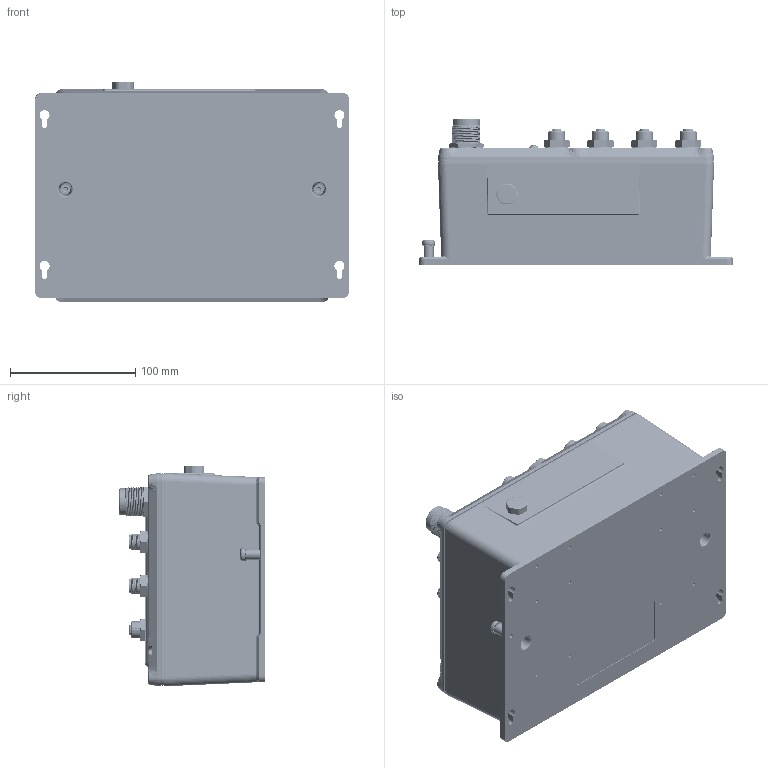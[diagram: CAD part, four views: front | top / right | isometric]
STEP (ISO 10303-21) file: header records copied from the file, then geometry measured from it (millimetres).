
FILE_DESCRIPTION((''),'2;1');
FILE_NAME('3D_TN-5916','2017-05-28T',('Vincent_Huang'),('PTC'),'PRO/ENGINEER BY PARAMETRIC TECHNOLOGY CORPORATION, 2013230','PRO/ENGINEER BY PARAMETRIC TECHNOLOGY CORPORATION, 2013230','');
FILE_SCHEMA(('AUTOMOTIVE_DESIGN { 1 0 10303 214 1 1 1 1 }'));
Products named in the file (1): 3D_TN-5916
Bounding box: 250 x 116.3 x 175.8 mm (x, y, z)
Volume: 952059.2 mm3; surface area: 626809.3 mm2
Topology: 10 solids, 113 shells, 15193 faces, 38975 edges, 25403 vertices
Faces by surface type: plane 8480, cylinder 4289, cone 1192, bspline 520, torus 459, sphere 253
Entity records: 534542 total; most frequent: CARTESIAN_POINT 144009, ORIENTED_EDGE 77273, DIRECTION 74382, EDGE_CURVE 38691, VERTEX_POINT 25401, AXIS2_PLACEMENT_3D 25271, VECTOR 23840, LINE 23840
